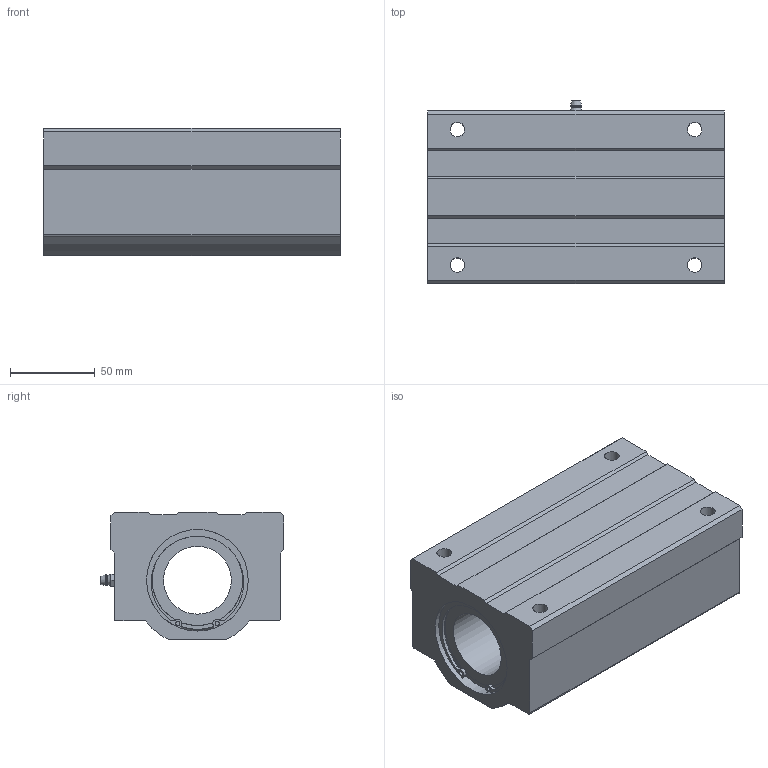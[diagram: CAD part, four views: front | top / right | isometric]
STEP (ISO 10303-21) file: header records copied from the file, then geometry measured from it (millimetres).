
FILE_DESCRIPTION((''),'2;1');
FILE_NAME('D:\製品 (図面)\カタログ用3D\リニアベアリング関連\STEP形式\LHW-B\LHW40B.stp','2010-05-21T10:52:13',('Tsuchiya'),(''),'Autodesk Inventor 10','Autodesk Inventor 10','');
FILE_SCHEMA(('AUTOMOTIVE_DESIGN { 1 0 10303 214 1 1 1 1 }'));
Length unit declared in the file: millimetre
Products named in the file (1): LHW40B
Bounding box: 175 x 108.4 x 75 mm (x, y, z)
Volume: 948818.5 mm3; surface area: 112564.7 mm2
Topology: 1 solids, 7 shells, 126 faces, 317 edges, 201 vertices
Faces by surface type: plane 50, bspline 40, cylinder 25, cone 7, torus 2, sphere 2
Full cylindrical faces by diameter (mm): 2.5 x2, 40 x2, 53.4 x2, 57 x2, 60 x8
Entity records: 3821 total; most frequent: CARTESIAN_POINT 1077, DIRECTION 558, ORIENTED_EDGE 512, EDGE_CURVE 256, AXIS2_PLACEMENT_3D 227, EDGE_LOOP 196, VERTEX_POINT 180, CIRCLE 140
